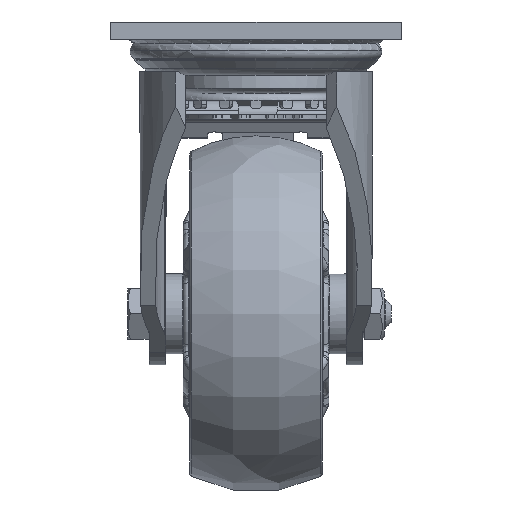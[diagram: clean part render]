
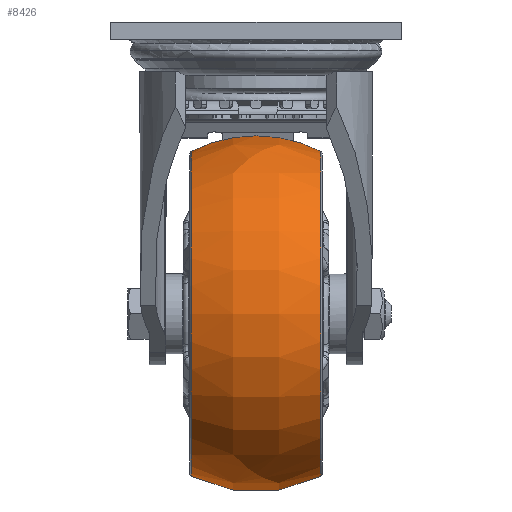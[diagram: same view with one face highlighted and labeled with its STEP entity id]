
A CAD part, left-side view. The second image highlights one B-rep face of the part: STEP entity #8426.
In plain terms, the highlighted free-form (B-spline) face has degree [3, 3] with [4, 7] control points.
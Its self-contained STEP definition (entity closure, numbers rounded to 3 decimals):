
#153=(
BOUNDED_SURFACE()
B_SPLINE_SURFACE(3,3,((#49269,#49270,#49271,#49272,#49273,#49274,#49275),
(#49276,#49277,#49278,#49279,#49280,#49281,#49282),(#49283,#49284,#49285,
#49286,#49287,#49288,#49289),(#49290,#49291,#49292,#49293,#49294,#49295,
#49296)),.UNSPECIFIED.,.F.,.T.,.F.)
B_SPLINE_SURFACE_WITH_KNOTS((4,4),(1,3,3,3,1),(0.,1.),(-0.5,0.,0.5,1.,1.5),
 .UNSPECIFIED.)
GEOMETRIC_REPRESENTATION_ITEM()
RATIONAL_B_SPLINE_SURFACE(((1.,0.333,0.333,1.,0.333,
0.333,1.),(0.928,0.309,0.309,
0.928,0.309,0.309,0.928),
(0.928,0.309,0.309,0.928,
0.309,0.309,0.928),(1.,0.333,
0.333,1.,0.333,0.333,1.)))
REPRESENTATION_ITEM('')
SURFACE()
);
#8426=ADVANCED_FACE('',(#10245,#10246),#153,.T.);
#10245=FACE_BOUND('',#11469,.T.);
#10246=FACE_BOUND('',#11470,.T.);
#11469=EDGE_LOOP('',(#16775));
#11470=EDGE_LOOP('',(#16776));
#16775=ORIENTED_EDGE('',*,*,#25982,.T.);
#16776=ORIENTED_EDGE('',*,*,#25983,.T.);
#22395=VERTEX_POINT('',#49266);
#22396=VERTEX_POINT('',#49268);
#25982=EDGE_CURVE('',#22395,#22395,#28587,.T.);
#25983=EDGE_CURVE('',#22396,#22396,#28588,.T.);
#28587=CIRCLE('',#30412,57.067);
#28588=CIRCLE('',#30413,57.067);
#30412=AXIS2_PLACEMENT_3D('',#49265,#35674,#35675);
#30413=AXIS2_PLACEMENT_3D('',#49267,#35676,#35677);
#35674=DIRECTION('',(0.,-1.,0.));
#35675=DIRECTION('',(0.,0.,-1.));
#35676=DIRECTION('',(0.,1.,0.));
#35677=DIRECTION('',(0.,0.,1.));
#49265=CARTESIAN_POINT('',(38.,22.666,-102.5));
#49266=CARTESIAN_POINT('',(38.,22.666,-159.567));
#49267=CARTESIAN_POINT('',(38.,-22.666,-102.5));
#49268=CARTESIAN_POINT('',(38.,-22.666,-45.433));
#49269=CARTESIAN_POINT('',(38.,22.666,-45.433));
#49270=CARTESIAN_POINT('',(152.135,22.666,-45.433));
#49271=CARTESIAN_POINT('',(152.135,22.666,-159.567));
#49272=CARTESIAN_POINT('',(38.,22.666,-159.567));
#49273=CARTESIAN_POINT('',(-76.135,22.666,-159.567));
#49274=CARTESIAN_POINT('',(-76.135,22.666,-45.433));
#49275=CARTESIAN_POINT('',(38.,22.666,-45.433));
#49276=CARTESIAN_POINT('',(38.,8.145,-38.048));
#49277=CARTESIAN_POINT('',(166.904,8.145,-38.048));
#49278=CARTESIAN_POINT('',(166.904,8.145,-166.952));
#49279=CARTESIAN_POINT('',(38.,8.145,-166.952));
#49280=CARTESIAN_POINT('',(-90.904,8.145,-166.952));
#49281=CARTESIAN_POINT('',(-90.904,8.145,-38.048));
#49282=CARTESIAN_POINT('',(38.,8.145,-38.048));
#49283=CARTESIAN_POINT('',(38.,-8.145,-38.048));
#49284=CARTESIAN_POINT('',(166.904,-8.145,-38.048));
#49285=CARTESIAN_POINT('',(166.904,-8.145,-166.952));
#49286=CARTESIAN_POINT('',(38.,-8.145,-166.952));
#49287=CARTESIAN_POINT('',(-90.904,-8.145,-166.952));
#49288=CARTESIAN_POINT('',(-90.904,-8.145,-38.048));
#49289=CARTESIAN_POINT('',(38.,-8.145,-38.048));
#49290=CARTESIAN_POINT('',(38.,-22.666,-45.433));
#49291=CARTESIAN_POINT('',(152.135,-22.666,-45.433));
#49292=CARTESIAN_POINT('',(152.135,-22.666,-159.567));
#49293=CARTESIAN_POINT('',(38.,-22.666,-159.567));
#49294=CARTESIAN_POINT('',(-76.135,-22.666,-159.567));
#49295=CARTESIAN_POINT('',(-76.135,-22.666,-45.433));
#49296=CARTESIAN_POINT('',(38.,-22.666,-45.433));
